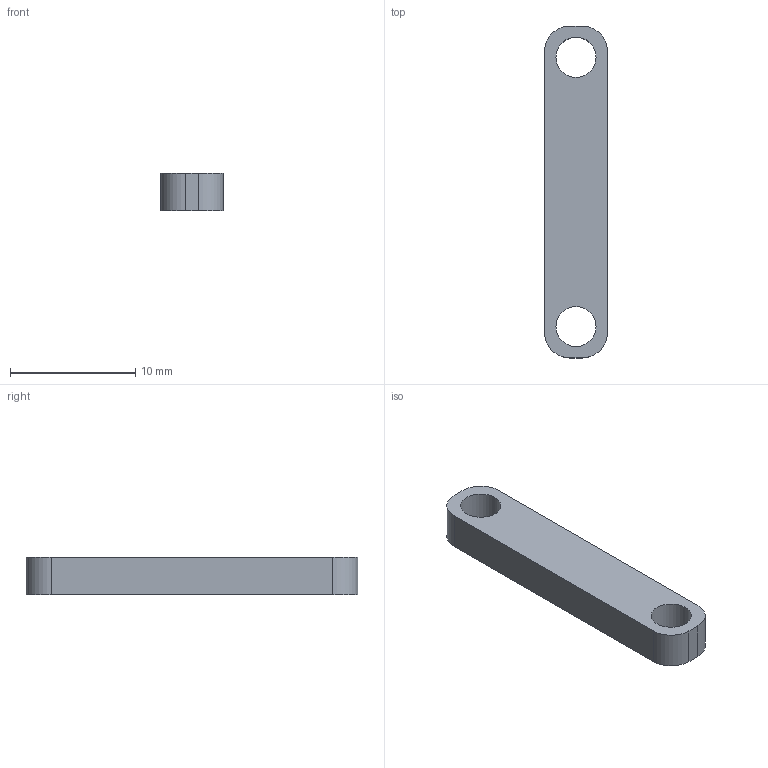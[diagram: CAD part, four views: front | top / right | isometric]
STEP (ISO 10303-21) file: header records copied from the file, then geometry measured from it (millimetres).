
FILE_DESCRIPTION(/* description */ (''),/* implementation_level */ '2;1');
FILE_NAME(/* name */ 'Claw Arm_v9.tmp.step',/* time_stamp */ '2026-11-01T13:09:29+02:00',/* author */ (''),/* organization */ (''),/* preprocessor_version */ 'ST-DEVELOPER v20.2',/* originating_system */ 'Autodesk Translation Framework v15.15.0.0',/* authorisation */ '');
FILE_SCHEMA (('AUTOMOTIVE_DESIGN { 1 0 10303 214 3 1 1 }'));
Length unit declared in the file: millimetre
Products named in the file (1): Claw Arm
Bounding box: 5 x 26.48 x 3 mm (x, y, z)
Volume: 338.6 mm3; surface area: 464.6 mm2
Topology: 1 solids, 1 shells, 12 faces, 30 edges, 20 vertices
Faces by surface type: cylinder 6, plane 6
Full cylindrical faces by diameter (mm): 3.2 x2
Entity records: 407 total; most frequent: DIRECTION 68, CARTESIAN_POINT 63, ORIENTED_EDGE 60, EDGE_CURVE 30, AXIS2_PLACEMENT_3D 25, VERTEX_POINT 20, LINE 18, VECTOR 18
